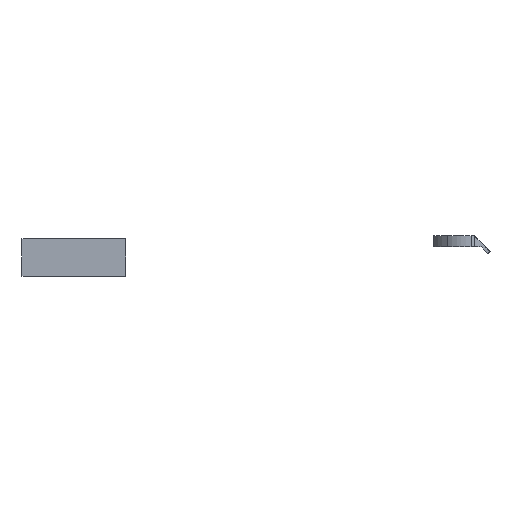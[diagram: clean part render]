
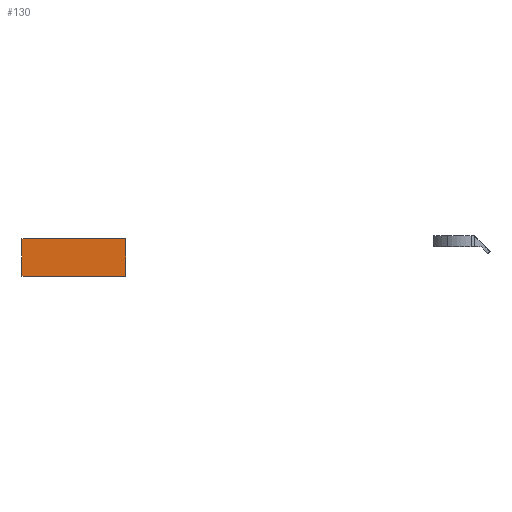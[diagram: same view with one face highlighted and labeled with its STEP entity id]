
A CAD part, left-side view. The second image highlights one B-rep face of the part: STEP entity #130.
In plain terms, the highlighted planar face has unit normal (-1, 0, 0).
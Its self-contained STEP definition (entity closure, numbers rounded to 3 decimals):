
#130 = ADVANCED_FACE( '', ( #172 ), #173, .T. );
#172 = FACE_OUTER_BOUND( '', #246, .T. );
#173 = PLANE( '', #247 );
#246 = EDGE_LOOP( '', ( #358, #359, #360, #361 ) );
#247 = AXIS2_PLACEMENT_3D( '', #362, #363, #364 );
#358 = ORIENTED_EDGE( '', *, *, #600, .T. );
#359 = ORIENTED_EDGE( '', *, *, #601, .F. );
#360 = ORIENTED_EDGE( '', *, *, #602, .T. );
#361 = ORIENTED_EDGE( '', *, *, #603, .T. );
#362 = CARTESIAN_POINT( '', ( 0., -51.5, 0. ) );
#363 = DIRECTION( '', ( -1., 0., 0. ) );
#364 = DIRECTION( '', ( 0., -1., 0. ) );
#600 = EDGE_CURVE( '', #703, #704, #705, .T. );
#601 = EDGE_CURVE( '', #706, #704, #707, .T. );
#602 = EDGE_CURVE( '', #706, #708, #709, .T. );
#603 = EDGE_CURVE( '', #708, #703, #710, .T. );
#703 = VERTEX_POINT( '', #860 );
#704 = VERTEX_POINT( '', #861 );
#705 = LINE( '', #862, #863 );
#706 = VERTEX_POINT( '', #864 );
#707 = LINE( '', #865, #866 );
#708 = VERTEX_POINT( '', #867 );
#709 = LINE( '', #868, #869 );
#710 = LINE( '', #870, #871 );
#860 = CARTESIAN_POINT( '', ( 0., -51.5, 37.5 ) );
#861 = CARTESIAN_POINT( '', ( 0., 51.5, 37.5 ) );
#862 = CARTESIAN_POINT( '', ( 0., 51.5, 37.5 ) );
#863 = VECTOR( '', #1038, 1. );
#864 = CARTESIAN_POINT( '', ( 0., 51.5, 0. ) );
#865 = CARTESIAN_POINT( '', ( 0., 51.5, 0. ) );
#866 = VECTOR( '', #1039, 1. );
#867 = CARTESIAN_POINT( '', ( 0., -51.5, 0. ) );
#868 = CARTESIAN_POINT( '', ( 0., 51.5, 0. ) );
#869 = VECTOR( '', #1040, 1. );
#870 = CARTESIAN_POINT( '', ( 0., -51.5, 0. ) );
#871 = VECTOR( '', #1041, 1. );
#1038 = DIRECTION( '', ( 0., 1., 0. ) );
#1039 = DIRECTION( '', ( 0., 0., 1. ) );
#1040 = DIRECTION( '', ( 0., -1., 0. ) );
#1041 = DIRECTION( '', ( 0., 0., 1. ) );
